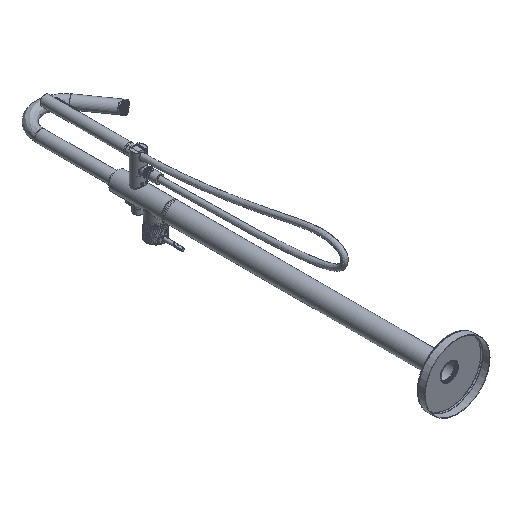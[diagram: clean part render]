
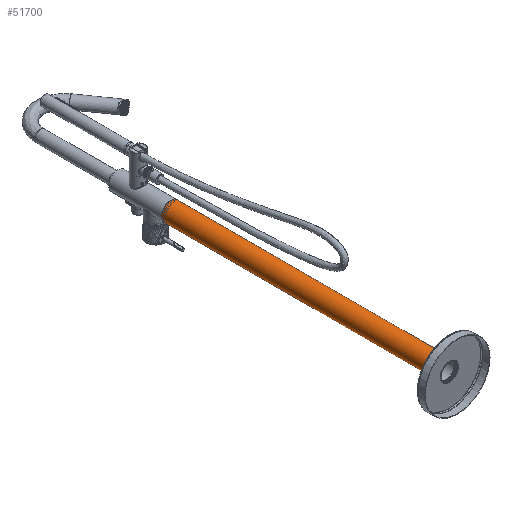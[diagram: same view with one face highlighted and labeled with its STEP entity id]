
A CAD part, isometric view. The second image highlights one B-rep face of the part: STEP entity #51700.
In plain terms, the highlighted cylindrical face has radius 22.5 mm (diameter 45 mm), a full revolution.
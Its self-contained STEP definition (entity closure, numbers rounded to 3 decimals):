
#4582 = CARTESIAN_POINT ( 'NONE',  ( 0., 684., 0. ) ) ;
#10969 = DIRECTION ( 'NONE',  ( 0., 0., -1. ) ) ;
#15528 = DIRECTION ( 'NONE',  ( 0., 0., 1. ) ) ;
#16889 = CIRCLE ( 'NONE', #37559, 22.5 ) ;
#19058 = AXIS2_PLACEMENT_3D ( 'NONE', #74126, #69169, #22778 ) ;
#19520 = EDGE_LOOP ( 'NONE', ( #62618 ) ) ;
#21311 = EDGE_LOOP ( 'NONE', ( #36486 ) ) ;
#22050 = CYLINDRICAL_SURFACE ( 'NONE', #19058, 22.5 ) ;
#22778 = DIRECTION ( 'NONE',  ( 0., 0., 1. ) ) ;
#27900 = CARTESIAN_POINT ( 'NONE',  ( 0., 0., 22.5 ) ) ;
#28157 = DIRECTION ( 'NONE',  ( 0., 1., 0. ) ) ;
#36346 = VERTEX_POINT ( 'NONE', #59502 ) ;
#36486 = ORIENTED_EDGE ( 'NONE', *, *, #68929, .T. ) ;
#37559 = AXIS2_PLACEMENT_3D ( 'NONE', #4582, #28157, #10969 ) ;
#43285 = AXIS2_PLACEMENT_3D ( 'NONE', #73335, #44453, #15528 ) ;
#44453 = DIRECTION ( 'NONE',  ( 0., 1., 0. ) ) ;
#50521 = CIRCLE ( 'NONE', #43285, 22.5 ) ;
#51665 = FACE_OUTER_BOUND ( 'NONE', #19520, .T. ) ;
#51700 = ADVANCED_FACE ( 'NONE', ( #74505, #51665 ), #22050, .T. ) ;
#58975 = EDGE_CURVE ( 'NONE', #36346, #36346, #16889, .T. ) ;
#59502 = CARTESIAN_POINT ( 'NONE',  ( 0., 684., -22.5 ) ) ;
#62106 = VERTEX_POINT ( 'NONE', #27900 ) ;
#62618 = ORIENTED_EDGE ( 'NONE', *, *, #58975, .F. ) ;
#68929 = EDGE_CURVE ( 'NONE', #62106, #62106, #50521, .T. ) ;
#69169 = DIRECTION ( 'NONE',  ( 0., -1., 0. ) ) ;
#73335 = CARTESIAN_POINT ( 'NONE',  ( 0., 0., 0. ) ) ;
#74126 = CARTESIAN_POINT ( 'NONE',  ( 0., 690., 0. ) ) ;
#74505 = FACE_OUTER_BOUND ( 'NONE', #21311, .T. ) ;
